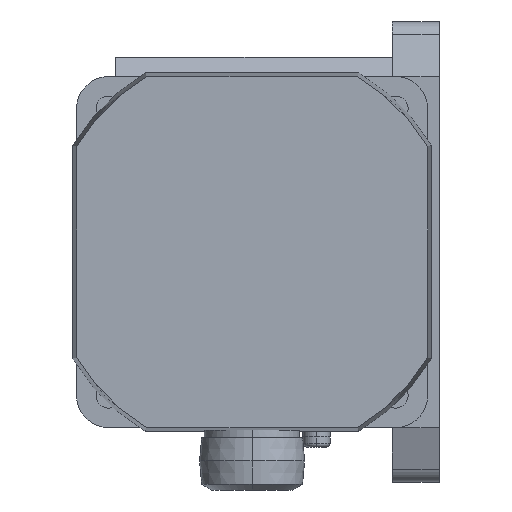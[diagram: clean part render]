
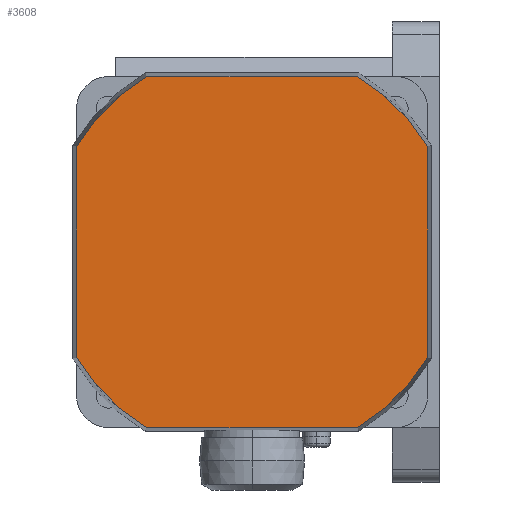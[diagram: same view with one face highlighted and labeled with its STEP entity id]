
A CAD part, left-side view. The second image highlights one B-rep face of the part: STEP entity #3608.
In plain terms, the highlighted planar face has unit normal (-1, 0, 0).
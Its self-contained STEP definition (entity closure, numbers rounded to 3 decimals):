
#3388=CARTESIAN_POINT('POINT57749',(-240.5,93.,
   10.042));
#3389=VERTEX_POINT('VERTEX57749',#3388);
#3396=CARTESIAN_POINT('POINT57750',(-240.5,75.042,
   28.));
#3397=VERTEX_POINT('VERTEX57750',#3396);
#3398=CARTESIAN_POINT('POS95269',(-240.5,48.,-17.));
#3399=DIRECTION('DIR144333',(1.,0.,0.));
#3400=DIRECTION('DIR144334',(0.,0.,-1.))
   ;
#3401=AXIS2_PLACEMENT_3D('AXIS49065',#3398,#3399,#3400);
#3402=CIRCLE('ELLIPSE22282',#3401,52.5);
#3403=EDGE_CURVE('EDGE88097',#3389,#3397,#3402,.T.);
#3429=CARTESIAN_POINT('POINT57752',(-240.5,20.958,
   28.));
#3430=VERTEX_POINT('VERTEX57752',#3429);
#3431=CARTESIAN_POINT('POS95272',(-240.5,48.,
   28.));
#3432=DIRECTION('DIR144339',(0.,1.,0.));
#3433=VECTOR('VEC46205',#3432,1.);
#3434=LINE('STRAIGHT46205',#3431,#3433);
#3435=EDGE_CURVE('EDGE88100',#3430,#3397,#3434,.T.);
#3460=CARTESIAN_POINT('POINT57754',(-240.5,3.,
   10.042));
#3461=VERTEX_POINT('VERTEX57754',#3460);
#3462=EDGE_CURVE('EDGE88103',#3430,#3461,#3402,.T.);
#3477=CARTESIAN_POINT('POINT57756',(-240.5,93.,
   -44.042));
#3478=VERTEX_POINT('VERTEX57756',#3477);
#3487=CARTESIAN_POINT('POS95275',(-240.5,93.,
   -5.875));
#3488=DIRECTION('DIR144343',(0.,0.,-1.));
#3489=VECTOR('VEC46207',#3488,1.);
#3490=LINE('STRAIGHT46207',#3487,#3489);
#3491=EDGE_CURVE('EDGE88107',#3389,#3478,#3490,.T.);
#3509=CARTESIAN_POINT('POINT57758',(-240.5,3.,
   -44.042));
#3510=VERTEX_POINT('VERTEX57758',#3509);
#3511=CARTESIAN_POINT('POS95278',(-240.5,3.,
   -5.875));
#3512=DIRECTION('DIR144347',(0.,0.,1.));
#3513=VECTOR('VEC46209',#3512,1.);
#3514=LINE('STRAIGHT46209',#3511,#3513);
#3515=EDGE_CURVE('EDGE88109',#3510,#3461,#3514,.T.);
#3572=CARTESIAN_POINT('POINT57762',(-240.5,75.042,
   -62.));
#3573=VERTEX_POINT('VERTEX57762',#3572);
#3580=EDGE_CURVE('EDGE88116',#3573,#3478,#3402,.T.);
#3585=ORIENTED_EDGE('COEDGE176223',*,*,#3491,.T.);
#3586=ORIENTED_EDGE('COEDGE176224',*,*,#3580,.F.);
#3587=CARTESIAN_POINT('POINT57763',(-240.5,20.958,
   -62.));
#3588=VERTEX_POINT('VERTEX57763',#3587);
#3589=CARTESIAN_POINT('POS95283',(-240.5,48.,-62.));
#3590=DIRECTION('DIR144354',(0.,-1.,0.));
#3591=VECTOR('VEC46212',#3590,1.);
#3592=LINE('STRAIGHT46212',#3589,#3591);
#3593=EDGE_CURVE('EDGE88117',#3573,#3588,#3592,.T.);
#3594=ORIENTED_EDGE('COEDGE176225',*,*,#3593,.T.);
#3595=EDGE_CURVE('EDGE88118',#3510,#3588,#3402,.T.);
#3596=ORIENTED_EDGE('COEDGE176226',*,*,#3595,.F.);
#3597=ORIENTED_EDGE('COEDGE176227',*,*,#3515,.T.);
#3598=ORIENTED_EDGE('COEDGE176228',*,*,#3462,.F.);
#3599=ORIENTED_EDGE('COEDGE176229',*,*,#3435,.T.);
#3600=ORIENTED_EDGE('COEDGE176230',*,*,#3403,.F.);
#3601=EDGE_LOOP('NONE',(#3585,#3586,#3594,#3596,#3597,#3598,#3599,#3600)
   );
#3602=FACE_BOUND('LOOP1',#3601,.T.);
#3603=CARTESIAN_POINT('POS95284',(-240.5,48.,
   5.25));
#3604=DIRECTION('DIR144355',(-1.,0.,0.));
#3605=DIRECTION('DIR144356',(0.,1.,0.));
#3606=AXIS2_PLACEMENT_3D('AXIS49072',#3603,#3604,#3605);
#3607=PLANE('PLANE15950',#3606);
#3608=ADVANCED_FACE('FACE36281',(#3602),#3607,.T.);
